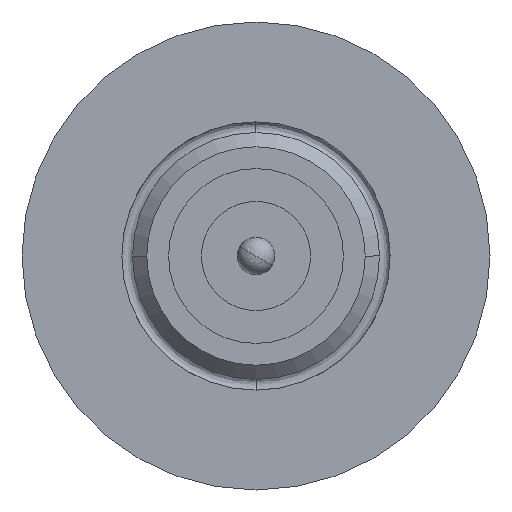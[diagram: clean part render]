
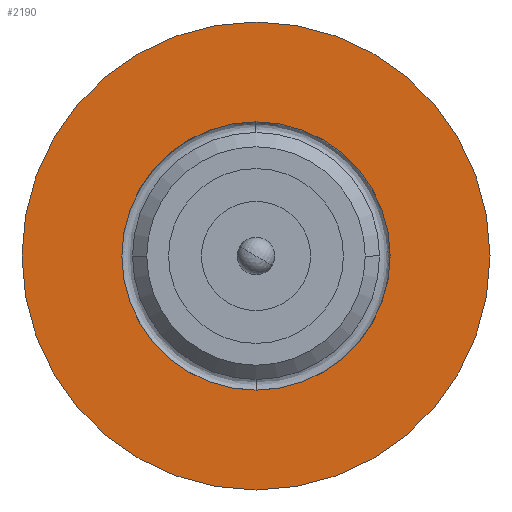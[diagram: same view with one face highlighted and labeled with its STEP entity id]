
A CAD part, left-side view. The second image highlights one B-rep face of the part: STEP entity #2190.
In plain terms, the highlighted planar face has unit normal (-1, 0, 0).
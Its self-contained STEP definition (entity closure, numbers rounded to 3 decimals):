
#130=CARTESIAN_POINT('',(0.,8.6,0.0));
#131=VERTEX_POINT('',#130);
#140=CARTESIAN_POINT('',(0.,-8.6,0.));
#141=VERTEX_POINT('',#140);
#142=CARTESIAN_POINT('',(0.,0.0,0.0));
#143=DIRECTION('',(1.0,0.0,0.0));
#144=DIRECTION('',(0.0,1.0,0.0));
#145=AXIS2_PLACEMENT_3D('',#142,#143,#144);
#146=CIRCLE('',#145,8.6);
#147=EDGE_CURVE('',#141,#131,#146,.T.);
#473=CARTESIAN_POINT('',(0.,15.0,0.0));
#474=VERTEX_POINT('',#473);
#483=CARTESIAN_POINT('',(0.,-15.0,0.));
#484=VERTEX_POINT('',#483);
#485=CARTESIAN_POINT('',(0.,0.0,0.0));
#486=DIRECTION('',(1.0,0.0,0.0));
#487=DIRECTION('',(0.0,1.0,0.0));
#488=AXIS2_PLACEMENT_3D('',#485,#486,#487);
#489=CIRCLE('',#488,15.0);
#490=EDGE_CURVE('',#474,#484,#489,.T.);
#1939=CARTESIAN_POINT('',(0.,0.0,0.0));
#1940=DIRECTION('',(1.0,0.0,0.0));
#1941=DIRECTION('',(0.0,1.0,0.0));
#1942=AXIS2_PLACEMENT_3D('',#1939,#1940,#1941);
#1943=CIRCLE('',#1942,15.0);
#1944=EDGE_CURVE('',#484,#474,#1943,.T.);
#2138=CARTESIAN_POINT('',(0.,0.0,0.0));
#2139=DIRECTION('',(1.0,0.0,0.0));
#2140=DIRECTION('',(0.0,1.0,0.0));
#2141=AXIS2_PLACEMENT_3D('',#2138,#2139,#2140);
#2142=CIRCLE('',#2141,8.6);
#2143=EDGE_CURVE('',#131,#141,#2142,.T.);
#2177=CARTESIAN_POINT('',(0.,11.8,0.0));
#2178=DIRECTION('',(-1.0,0.0,0.0));
#2179=DIRECTION('',(0.0,0.0,1.0));
#2180=AXIS2_PLACEMENT_3D('',#2177,#2178,#2179);
#2181=PLANE('',#2180);
#2182=ORIENTED_EDGE('',*,*,#490,.F.);
#2183=ORIENTED_EDGE('',*,*,#1944,.F.);
#2184=EDGE_LOOP('',(#2182,#2183));
#2185=FACE_OUTER_BOUND('',#2184,.T.);
#2186=ORIENTED_EDGE('',*,*,#2143,.T.);
#2187=ORIENTED_EDGE('',*,*,#147,.T.);
#2188=EDGE_LOOP('',(#2186,#2187));
#2189=FACE_BOUND('',#2188,.T.);
#2190=ADVANCED_FACE('',(#2185,#2189),#2181,.T.);
